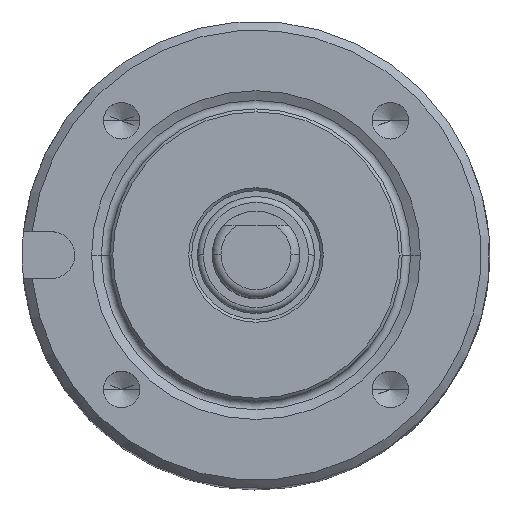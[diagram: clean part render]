
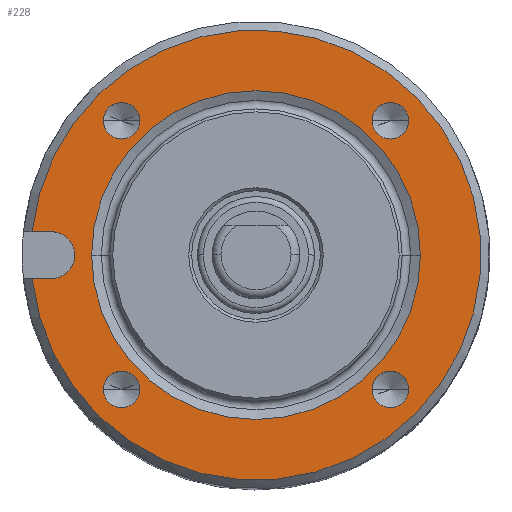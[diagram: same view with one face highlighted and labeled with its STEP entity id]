
A CAD part, top view. The second image highlights one B-rep face of the part: STEP entity #228.
In plain terms, the highlighted planar face has unit normal (0, 0, 1).
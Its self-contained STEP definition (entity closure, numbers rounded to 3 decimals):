
#52 = DIRECTION ( 'NONE',  ( 1., 0., 0. ) ) ;
#118 = EDGE_LOOP ( 'NONE', ( #4761, #3339 ) ) ;
#128 = VERTEX_POINT ( 'NONE', #2208 ) ;
#178 = CARTESIAN_POINT ( 'NONE',  ( -7., 0., -13. ) ) ;
#183 = DIRECTION ( 'NONE',  ( 1., 0., 0. ) ) ;
#228 = ADVANCED_FACE ( 'NONE', ( #2600, #1903, #690, #2264, #3150, #1948 ), #1871, .F. ) ;
#234 = AXIS2_PLACEMENT_3D ( 'NONE', #2165, #4930, #3745 ) ;
#245 = DIRECTION ( 'NONE',  ( 1., 0., 0. ) ) ;
#296 = EDGE_CURVE ( 'NONE', #1778, #3212, #2614, .T. ) ;
#300 = CARTESIAN_POINT ( 'NONE',  ( 0., 0., -13. ) ) ;
#328 = DIRECTION ( 'NONE',  ( 0., 0., 1. ) ) ;
#352 = DIRECTION ( 'NONE',  ( -1., 0., 0. ) ) ;
#356 = EDGE_CURVE ( 'NONE', #2759, #2211, #4429, .T. ) ;
#359 = CARTESIAN_POINT ( 'NONE',  ( -7., 0., -13. ) ) ;
#364 = VERTEX_POINT ( 'NONE', #3565 ) ;
#379 = VERTEX_POINT ( 'NONE', #4797 ) ;
#384 = DIRECTION ( 'NONE',  ( 1., 0., 0. ) ) ;
#390 = EDGE_CURVE ( 'NONE', #3895, #1286, #2073, .T. ) ;
#406 = CIRCLE ( 'NONE', #901, 0.8 ) ;
#510 = CARTESIAN_POINT ( 'NONE',  ( -4.596, -4.596, -13. ) ) ;
#587 = CARTESIAN_POINT ( 'NONE',  ( -7., 0.8, -13. ) ) ;
#606 = ORIENTED_EDGE ( 'NONE', *, *, #2150, .F. ) ;
#628 = CARTESIAN_POINT ( 'NONE',  ( -7., -0.8, -13. ) ) ;
#690 = FACE_BOUND ( 'NONE', #4138, .T. ) ;
#719 = ORIENTED_EDGE ( 'NONE', *, *, #1212, .F. ) ;
#859 = AXIS2_PLACEMENT_3D ( 'NONE', #1067, #2224, #1445 ) ;
#876 = DIRECTION ( 'NONE',  ( 0., 0., 1. ) ) ;
#901 = AXIS2_PLACEMENT_3D ( 'NONE', #359, #1928, #2594 ) ;
#910 = ORIENTED_EDGE ( 'NONE', *, *, #2171, .F. ) ;
#986 = VERTEX_POINT ( 'NONE', #4136 ) ;
#1060 = AXIS2_PLACEMENT_3D ( 'NONE', #2151, #1426, #245 ) ;
#1067 = CARTESIAN_POINT ( 'NONE',  ( 4.596, 4.596, -13. ) ) ;
#1070 = EDGE_CURVE ( 'NONE', #3059, #4399, #1919, .T. ) ;
#1088 = ORIENTED_EDGE ( 'NONE', *, *, #2254, .F. ) ;
#1147 = CIRCLE ( 'NONE', #3363, 5.626 ) ;
#1154 = AXIS2_PLACEMENT_3D ( 'NONE', #3914, #4744, #2424 ) ;
#1205 = DIRECTION ( 'NONE',  ( 0., 0., 1. ) ) ;
#1212 = EDGE_CURVE ( 'NONE', #3212, #1778, #3489, .T. ) ;
#1218 = DIRECTION ( 'NONE',  ( 0., 0., 1. ) ) ;
#1286 = VERTEX_POINT ( 'NONE', #4783 ) ;
#1294 = DIRECTION ( 'NONE',  ( 0., 0., 1. ) ) ;
#1313 = AXIS2_PLACEMENT_3D ( 'NONE', #2019, #1294, #2434 ) ;
#1364 = DIRECTION ( 'NONE',  ( 0., 0., 1. ) ) ;
#1393 = DIRECTION ( 'NONE',  ( 0., 0., 1. ) ) ;
#1426 = DIRECTION ( 'NONE',  ( 0., 0., 1. ) ) ;
#1445 = DIRECTION ( 'NONE',  ( 1., 0., 0. ) ) ;
#1535 = DIRECTION ( 'NONE',  ( 0., 0., 1. ) ) ;
#1538 = ORIENTED_EDGE ( 'NONE', *, *, #3182, .F. ) ;
#1544 = CIRCLE ( 'NONE', #5010, 0.8 ) ;
#1683 = ORIENTED_EDGE ( 'NONE', *, *, #4408, .T. ) ;
#1692 = DIRECTION ( 'NONE',  ( 1., 0., 0. ) ) ;
#1693 = CARTESIAN_POINT ( 'NONE',  ( -3.971, -4.596, -13. ) ) ;
#1778 = VERTEX_POINT ( 'NONE', #4479 ) ;
#1783 = VERTEX_POINT ( 'NONE', #587 ) ;
#1788 = VECTOR ( 'NONE', #2819, 1000. ) ;
#1871 = PLANE ( 'NONE',  #3765 ) ;
#1891 = ORIENTED_EDGE ( 'NONE', *, *, #1070, .F. ) ;
#1903 = FACE_BOUND ( 'NONE', #118, .T. ) ;
#1919 = CIRCLE ( 'NONE', #859, 0.625 ) ;
#1928 = DIRECTION ( 'NONE',  ( 0., 0., 1. ) ) ;
#1948 = FACE_OUTER_BOUND ( 'NONE', #4595, .T. ) ;
#1953 = ORIENTED_EDGE ( 'NONE', *, *, #4177, .F. ) ;
#2019 = CARTESIAN_POINT ( 'NONE',  ( -4.596, -4.596, -13. ) ) ;
#2031 = ORIENTED_EDGE ( 'NONE', *, *, #3408, .F. ) ;
#2052 = ORIENTED_EDGE ( 'NONE', *, *, #2251, .F. ) ;
#2073 = CIRCLE ( 'NONE', #4543, 0.625 ) ;
#2129 = VECTOR ( 'NONE', #1692, 1000. ) ;
#2150 = EDGE_CURVE ( 'NONE', #364, #128, #2712, .T. ) ;
#2151 = CARTESIAN_POINT ( 'NONE',  ( -4.596, 4.596, -13. ) ) ;
#2165 = CARTESIAN_POINT ( 'NONE',  ( -4.596, 4.596, -13. ) ) ;
#2171 = EDGE_CURVE ( 'NONE', #128, #364, #1147, .T. ) ;
#2193 = CARTESIAN_POINT ( 'NONE',  ( -3.971, 4.596, -13. ) ) ;
#2208 = CARTESIAN_POINT ( 'NONE',  ( -5.626, 0., -13. ) ) ;
#2211 = VERTEX_POINT ( 'NONE', #4383 ) ;
#2224 = DIRECTION ( 'NONE',  ( 0., 0., 1. ) ) ;
#2233 = CIRCLE ( 'NONE', #2635, 0.625 ) ;
#2236 = CARTESIAN_POINT ( 'NONE',  ( 4.596, -4.596, -13. ) ) ;
#2251 = EDGE_CURVE ( 'NONE', #2759, #2271, #2840, .T. ) ;
#2254 = EDGE_CURVE ( 'NONE', #2271, #379, #406, .T. ) ;
#2264 = FACE_BOUND ( 'NONE', #3639, .T. ) ;
#2271 = VERTEX_POINT ( 'NONE', #628 ) ;
#2340 = EDGE_LOOP ( 'NONE', ( #4218, #1953 ) ) ;
#2376 = EDGE_CURVE ( 'NONE', #2784, #986, #5100, .T. ) ;
#2424 = DIRECTION ( 'NONE',  ( 1., 0., 0. ) ) ;
#2434 = DIRECTION ( 'NONE',  ( 1., 0., 0. ) ) ;
#2447 = CARTESIAN_POINT ( 'NONE',  ( -9., 0.8, -13. ) ) ;
#2449 = AXIS2_PLACEMENT_3D ( 'NONE', #300, #1535, #352 ) ;
#2594 = DIRECTION ( 'NONE',  ( 1., 0., 0. ) ) ;
#2600 = FACE_BOUND ( 'NONE', #4446, .T. ) ;
#2614 = CIRCLE ( 'NONE', #3275, 0.625 ) ;
#2624 = CIRCLE ( 'NONE', #234, 0.625 ) ;
#2635 = AXIS2_PLACEMENT_3D ( 'NONE', #4851, #1393, #183 ) ;
#2648 = ORIENTED_EDGE ( 'NONE', *, *, #296, .F. ) ;
#2683 = CARTESIAN_POINT ( 'NONE',  ( 3.971, -4.596, -13. ) ) ;
#2712 = CIRCLE ( 'NONE', #1154, 5.626 ) ;
#2759 = VERTEX_POINT ( 'NONE', #4517 ) ;
#2784 = VERTEX_POINT ( 'NONE', #2193 ) ;
#2819 = DIRECTION ( 'NONE',  ( 1., 0., 0. ) ) ;
#2835 = AXIS2_PLACEMENT_3D ( 'NONE', #3982, #1205, #3236 ) ;
#2840 = LINE ( 'NONE', #4770, #1788 ) ;
#3059 = VERTEX_POINT ( 'NONE', #3621 ) ;
#3150 = FACE_BOUND ( 'NONE', #2340, .T. ) ;
#3182 = EDGE_CURVE ( 'NONE', #379, #1783, #1544, .T. ) ;
#3212 = VERTEX_POINT ( 'NONE', #2683 ) ;
#3236 = DIRECTION ( 'NONE',  ( 1., 0., 0. ) ) ;
#3275 = AXIS2_PLACEMENT_3D ( 'NONE', #2236, #328, #5051 ) ;
#3339 = ORIENTED_EDGE ( 'NONE', *, *, #4687, .F. ) ;
#3363 = AXIS2_PLACEMENT_3D ( 'NONE', #4307, #1218, #384 ) ;
#3408 = EDGE_CURVE ( 'NONE', #4399, #3059, #2233, .T. ) ;
#3478 = DIRECTION ( 'NONE',  ( 0., 0., -1. ) ) ;
#3489 = CIRCLE ( 'NONE', #2835, 0.625 ) ;
#3553 = CIRCLE ( 'NONE', #1313, 0.625 ) ;
#3565 = CARTESIAN_POINT ( 'NONE',  ( 5.626, 0., -13. ) ) ;
#3621 = CARTESIAN_POINT ( 'NONE',  ( 3.971, 4.596, -13. ) ) ;
#3639 = EDGE_LOOP ( 'NONE', ( #2031, #1891 ) ) ;
#3666 = LINE ( 'NONE', #2447, #2129 ) ;
#3745 = DIRECTION ( 'NONE',  ( 1., 0., 0. ) ) ;
#3765 = AXIS2_PLACEMENT_3D ( 'NONE', #5025, #3478, #4253 ) ;
#3895 = VERTEX_POINT ( 'NONE', #1693 ) ;
#3914 = CARTESIAN_POINT ( 'NONE',  ( 0., 0., -13. ) ) ;
#3982 = CARTESIAN_POINT ( 'NONE',  ( 4.596, -4.596, -13. ) ) ;
#4136 = CARTESIAN_POINT ( 'NONE',  ( -5.221, 4.596, -13. ) ) ;
#4138 = EDGE_LOOP ( 'NONE', ( #2648, #719 ) ) ;
#4177 = EDGE_CURVE ( 'NONE', #986, #2784, #2624, .T. ) ;
#4218 = ORIENTED_EDGE ( 'NONE', *, *, #2376, .F. ) ;
#4244 = ORIENTED_EDGE ( 'NONE', *, *, #356, .T. ) ;
#4253 = DIRECTION ( 'NONE',  ( -1., 0., 0. ) ) ;
#4307 = CARTESIAN_POINT ( 'NONE',  ( 0., 0., -13. ) ) ;
#4383 = CARTESIAN_POINT ( 'NONE',  ( -7.658, 0.8, -13. ) ) ;
#4399 = VERTEX_POINT ( 'NONE', #4845 ) ;
#4408 = EDGE_CURVE ( 'NONE', #2211, #1783, #3666, .T. ) ;
#4429 = CIRCLE ( 'NONE', #2449, 7.7 ) ;
#4446 = EDGE_LOOP ( 'NONE', ( #606, #910 ) ) ;
#4479 = CARTESIAN_POINT ( 'NONE',  ( 5.221, -4.596, -13. ) ) ;
#4507 = DIRECTION ( 'NONE',  ( 1., 0., 0. ) ) ;
#4517 = CARTESIAN_POINT ( 'NONE',  ( -7.658, -0.8, -13. ) ) ;
#4543 = AXIS2_PLACEMENT_3D ( 'NONE', #510, #876, #52 ) ;
#4595 = EDGE_LOOP ( 'NONE', ( #2052, #4244, #1683, #1538, #1088 ) ) ;
#4687 = EDGE_CURVE ( 'NONE', #1286, #3895, #3553, .T. ) ;
#4744 = DIRECTION ( 'NONE',  ( 0., 0., 1. ) ) ;
#4761 = ORIENTED_EDGE ( 'NONE', *, *, #390, .F. ) ;
#4770 = CARTESIAN_POINT ( 'NONE',  ( -9., -0.8, -13. ) ) ;
#4783 = CARTESIAN_POINT ( 'NONE',  ( -5.221, -4.596, -13. ) ) ;
#4797 = CARTESIAN_POINT ( 'NONE',  ( -6.2, 0., -13. ) ) ;
#4845 = CARTESIAN_POINT ( 'NONE',  ( 5.221, 4.596, -13. ) ) ;
#4851 = CARTESIAN_POINT ( 'NONE',  ( 4.596, 4.596, -13. ) ) ;
#4930 = DIRECTION ( 'NONE',  ( 0., 0., 1. ) ) ;
#5010 = AXIS2_PLACEMENT_3D ( 'NONE', #178, #1364, #4507 ) ;
#5025 = CARTESIAN_POINT ( 'NONE',  ( 0., 5.626, -13. ) ) ;
#5051 = DIRECTION ( 'NONE',  ( 1., 0., 0. ) ) ;
#5100 = CIRCLE ( 'NONE', #1060, 0.625 ) ;
